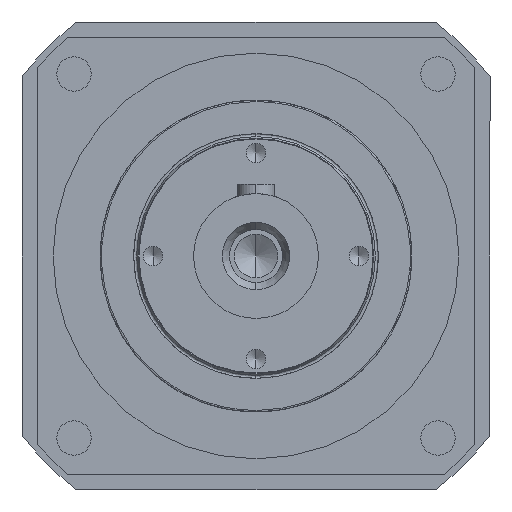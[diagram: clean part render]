
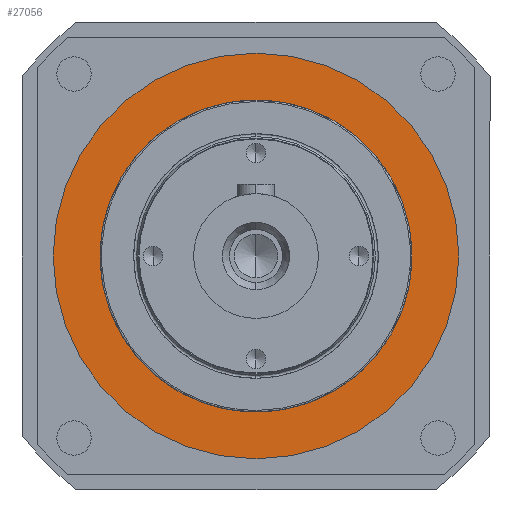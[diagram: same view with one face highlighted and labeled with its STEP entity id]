
A CAD part, left-side view. The second image highlights one B-rep face of the part: STEP entity #27056.
In plain terms, the highlighted planar face has unit normal (-1, 0, 0).
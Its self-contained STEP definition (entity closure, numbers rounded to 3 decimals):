
#486 = VERTEX_POINT ( 'NONE', #20589 ) ;
#1392 = CIRCLE ( 'NONE', #31465, 50. ) ;
#1991 = VERTEX_POINT ( 'NONE', #14678 ) ;
#2799 = ORIENTED_EDGE ( 'NONE', *, *, #12786, .F. ) ;
#5643 = FACE_OUTER_BOUND ( 'NONE', #6532, .T. ) ;
#5730 = CARTESIAN_POINT ( 'NONE',  ( 84., 0., 0. ) ) ;
#6027 = CARTESIAN_POINT ( 'NONE',  ( 84., 0., 0. ) ) ;
#6532 = EDGE_LOOP ( 'NONE', ( #2799, #36940 ) ) ;
#7197 = CARTESIAN_POINT ( 'NONE',  ( 84., 0., 0. ) ) ;
#8562 = CARTESIAN_POINT ( 'NONE',  ( 84., 0., 0. ) ) ;
#8679 = DIRECTION ( 'NONE',  ( 0., 0., 1. ) ) ;
#8961 = DIRECTION ( 'NONE',  ( 0., 0., 1. ) ) ;
#9903 = AXIS2_PLACEMENT_3D ( 'NONE', #6027, #26542, #8961 ) ;
#9966 = CARTESIAN_POINT ( 'NONE',  ( 84., 0., 50. ) ) ;
#10160 = DIRECTION ( 'NONE',  ( 0., 0., 1. ) ) ;
#10546 = CARTESIAN_POINT ( 'NONE',  ( 84., 0., -50. ) ) ;
#11057 = EDGE_CURVE ( 'NONE', #486, #1991, #20883, .T. ) ;
#11544 = DIRECTION ( 'NONE',  ( 0., 0., 1. ) ) ;
#12786 = EDGE_CURVE ( 'NONE', #1991, #486, #25430, .T. ) ;
#12998 = VERTEX_POINT ( 'NONE', #9966 ) ;
#14678 = CARTESIAN_POINT ( 'NONE',  ( 84., 0., 65. ) ) ;
#15419 = AXIS2_PLACEMENT_3D ( 'NONE', #10546, #16434, #36922 ) ;
#15650 = EDGE_CURVE ( 'NONE', #19136, #12998, #1392, .T. ) ;
#15988 = EDGE_LOOP ( 'NONE', ( #37452, #22972 ) ) ;
#16434 = DIRECTION ( 'NONE',  ( 1., 0., 0. ) ) ;
#19136 = VERTEX_POINT ( 'NONE', #28705 ) ;
#20589 = CARTESIAN_POINT ( 'NONE',  ( 84., 0., -65. ) ) ;
#20883 = CIRCLE ( 'NONE', #22492, 65. ) ;
#21202 = FACE_BOUND ( 'NONE', #15988, .T. ) ;
#22067 = EDGE_CURVE ( 'NONE', #12998, #19136, #31634, .T. ) ;
#22492 = AXIS2_PLACEMENT_3D ( 'NONE', #8562, #29127, #11544 ) ;
#22972 = ORIENTED_EDGE ( 'NONE', *, *, #15650, .F. ) ;
#25430 = CIRCLE ( 'NONE', #37257, 65. ) ;
#26246 = DIRECTION ( 'NONE',  ( 1., 0., 0. ) ) ;
#26542 = DIRECTION ( 'NONE',  ( -1., 0., 0. ) ) ;
#27056 = ADVANCED_FACE ( 'NONE', ( #5643, #21202 ), #34027, .F. ) ;
#27738 = DIRECTION ( 'NONE',  ( -1., 0., 0. ) ) ;
#28705 = CARTESIAN_POINT ( 'NONE',  ( 84., 0., -50. ) ) ;
#29127 = DIRECTION ( 'NONE',  ( 1., 0., 0. ) ) ;
#31465 = AXIS2_PLACEMENT_3D ( 'NONE', #7197, #27738, #10160 ) ;
#31634 = CIRCLE ( 'NONE', #9903, 50. ) ;
#34027 = PLANE ( 'NONE',  #15419 ) ;
#36922 = DIRECTION ( 'NONE',  ( 0., 0., -1. ) ) ;
#36940 = ORIENTED_EDGE ( 'NONE', *, *, #11057, .F. ) ;
#37257 = AXIS2_PLACEMENT_3D ( 'NONE', #5730, #26246, #8679 ) ;
#37452 = ORIENTED_EDGE ( 'NONE', *, *, #22067, .F. ) ;
